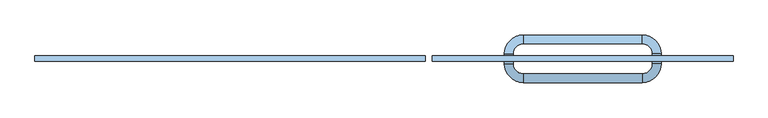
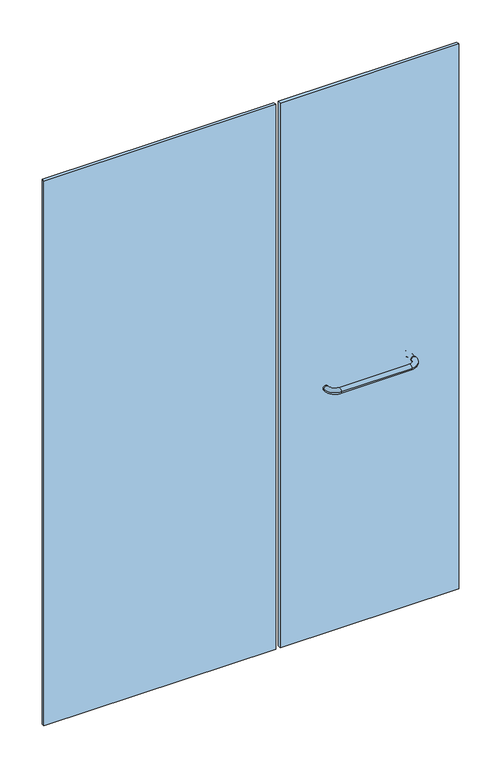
"""IFC4 building model written with IfcOpenShell, lengths in millimetres: window geometry, Baño 1 Puerta lateral - toallero simple : CA01-cancel baño-1.455."""

from ifc_helpers import new_model, si_unit, point, frame, origin, origin_with_axes, place, context, project, spatial, polyline, circle_curve, ellipse_curve, trimmed, outline, extrude, source, transform, mapped, element, save
from ifc_brep_helpers import cylinder_surface, revolved_surface, advanced_brep


def window_b7257eee(model_context):
    return source(origin(), model_context, "Body", "SolidModel", [
        extrude(outline(polyline([(92.5, -5.5), (92.5, 5.5), (712.5, 5.5), (712.5, -5.5), (92.5, -5.5)])), origin_with_axes(), (0.0, 0.0, 1.0), 2000.0),
        extrude(outline(polyline([(-727.5, -5.5), (-727.5, 5.5), (77.5, 5.5), (77.5, -5.5), (-727.5, -5.5)])), origin_with_axes(), (0.0, 0.0, 1.0), 2000.0),
        advanced_brep(
        [(241.0, 10.0, 900.0), (280.0, 49.0, 900.0), (280.0, 31.0, 900.0), (259.0, 10.0, 900.0), (259.0, -10.0, 900.0), (241.0, -10.0, 900.0), (280.0, -49.0, 900.0), (280.0, -31.0, 900.0), (525.0, -31.0, 900.0), (525.0, -49.0, 900.0), (564.0, -10.0, 900.0), (546.0, -10.0, 900.0), (546.0, 10.0, 900.0), (564.0, 10.0, 900.0), (525.0, 49.0, 900.0), (525.0, 31.0, 900.0)],
        [
            (0, 1, circle_curve(frame((280.0, 10.0, 900.0), z_axis=(0.0, 0.0, -1.0), x_axis=(0.0, 1.0, 0.0)), 39.0)),
            (1, 2, circle_curve(frame((280.0, 40.0, 900.0), z_axis=(-1.0, 0.0, 0.0), x_axis=(0.0, -1.0, 0.0)), 9.0)),
            (2, 3, circle_curve(frame((280.0, 10.0, 900.0), z_axis=(0.0, 0.0, 1.0), x_axis=(0.0, 1.0, 0.0)), 21.0)),
            (3, 0, circle_curve(frame((250.0, 10.0, 900.0), z_axis=(0.0, 1.0, 0.0), x_axis=(1.0, 0.0, 0.0)), 9.0)),
            (2, 1, circle_curve(frame((280.0, 40.0, 900.0), z_axis=(-1.0, 0.0, 0.0), x_axis=(0.0, -1.0, 0.0)), 9.0)),
            (0, 3, circle_curve(frame((250.0, 10.0, 900.0), z_axis=(0.0, 1.0, 0.0), x_axis=(1.0, 0.0, 0.0)), 9.0)),
            (3, 4),
            (4, 5, circle_curve(frame((250.0, -10.0, 900.0), z_axis=(0.0, 1.0, 0.0), x_axis=(1.0, 0.0, 0.0)), 9.0)),
            (5, 0),
            (5, 4, circle_curve(frame((250.0, -10.0, 900.0), z_axis=(0.0, 1.0, 0.0), x_axis=(1.0, 0.0, 0.0)), 9.0)),
            (6, 5, circle_curve(frame((280.0, -10.0, 900.0), z_axis=(0.0, 0.0, -1.0), x_axis=(-1.0, 0.0, 0.0)), 39.0)),
            (4, 7, circle_curve(frame((280.0, -10.0, 900.0), z_axis=(0.0, 0.0, 1.0), x_axis=(-1.0, 0.0, 0.0)), 21.0)),
            (7, 6, circle_curve(frame((280.0, -40.0, 900.0), z_axis=(-1.0, 0.0, 0.0), x_axis=(0.0, 1.0, 0.0)), 9.0)),
            (6, 7, circle_curve(frame((280.0, -40.0, 900.0), z_axis=(-1.0, 0.0, 0.0), x_axis=(0.0, 1.0, 0.0)), 9.0)),
            (7, 8),
            (8, 9, circle_curve(frame((525.0, -40.0, 900.0), z_axis=(-1.0, 0.0, 0.0), x_axis=(0.0, 1.0, 0.0)), 9.0)),
            (9, 6),
            (9, 8, circle_curve(frame((525.0, -40.0, 900.0), z_axis=(-1.0, 0.0, 0.0), x_axis=(0.0, 1.0, 0.0)), 9.0)),
            (10, 9, circle_curve(frame((525.0, -10.0, 900.0), z_axis=(0.0, 0.0, -1.0), x_axis=(0.0, -1.0, 0.0)), 39.0)),
            (8, 11, circle_curve(frame((525.0, -10.0, 900.0), z_axis=(0.0, 0.0, 1.0), x_axis=(0.0, -1.0, 0.0)), 21.0)),
            (11, 10, circle_curve(frame((555.0, -10.0, 900.0), z_axis=(0.0, -1.0, 0.0), x_axis=(-1.0, 0.0, 0.0)), 9.0)),
            (10, 11, circle_curve(frame((555.0, -10.0, 900.0), z_axis=(0.0, -1.0, 0.0), x_axis=(-1.0, 0.0, 0.0)), 9.0)),
            (11, 12),
            (12, 13, circle_curve(frame((555.0, 10.0, 900.0), z_axis=(0.0, -1.0, 0.0), x_axis=(-1.0, 0.0, 0.0)), 9.0)),
            (13, 10),
            (13, 12, circle_curve(frame((555.0, 10.0, 900.0), z_axis=(0.0, -1.0, 0.0), x_axis=(-1.0, 0.0, 0.0)), 9.0)),
            (14, 13, circle_curve(frame((525.0, 10.0, 900.0), z_axis=(0.0, 0.0, -1.0), x_axis=(1.0, 0.0, 0.0)), 39.0)),
            (12, 15, circle_curve(frame((525.0, 10.0, 900.0), z_axis=(0.0, 0.0, 1.0), x_axis=(1.0, 0.0, 0.0)), 21.0)),
            (15, 14, circle_curve(frame((525.0, 40.0, 900.0), z_axis=(1.0, 0.0, 0.0), x_axis=(0.0, -1.0, 0.0)), 9.0)),
            (14, 15, circle_curve(frame((525.0, 40.0, 900.0), z_axis=(1.0, 0.0, 0.0), x_axis=(0.0, -1.0, 0.0)), 9.0)),
            (15, 2),
            (1, 14),
        ],
        [
            revolved_surface(trimmed(ellipse_curve(frame((280.0, 40.0, 900.0), z_axis=(1.0, 0.0, 0.0), x_axis=(0.0, -1.0, 0.0)), 9.0, 9.0), [point((280.0, 31.0, 900.0))], [point((280.0, 49.0, 900.0))], True, "CARTESIAN"), (280.0, 10.0, 0.0), (0.0, 0.0, 1.0)),
            revolved_surface(trimmed(ellipse_curve(frame((280.0, 40.0, 900.0), z_axis=(1.0, 0.0, 0.0), x_axis=(0.0, -1.0, 0.0)), 9.0, 9.0), [point((280.0, 49.0, 900.0))], [point((280.0, 31.0, 900.0))], True, "CARTESIAN"), (280.0, 10.0, 0.0), (0.0, 0.0, 1.0)),
            cylinder_surface(frame((250.0, 10.0, 900.0), z_axis=(0.0, 1.0, 0.0), x_axis=(1.0, 0.0, 0.0)), 9.0),
            revolved_surface(trimmed(ellipse_curve(frame((250.0, -10.0, 900.0), z_axis=(0.0, 1.0, 0.0), x_axis=(1.0, 0.0, 0.0)), 9.0, 9.0), [point((259.0, -10.0, 900.0))], [point((241.0, -10.0, 900.0))], True, "CARTESIAN"), (280.0, -10.0, 0.0), (0.0, 0.0, 1.0)),
            revolved_surface(trimmed(ellipse_curve(frame((250.0, -10.0, 900.0), z_axis=(0.0, 1.0, 0.0), x_axis=(1.0, 0.0, 0.0)), 9.0, 9.0), [point((241.0, -10.0, 900.0))], [point((259.0, -10.0, 900.0))], True, "CARTESIAN"), (280.0, -10.0, 0.0), (0.0, 0.0, 1.0)),
            cylinder_surface(frame((280.0, -40.0, 900.0), z_axis=(-1.0, 0.0, 0.0), x_axis=(0.0, 1.0, 0.0)), 9.0),
            revolved_surface(trimmed(ellipse_curve(frame((525.0, -40.0, 900.0), z_axis=(-1.0, 0.0, 0.0), x_axis=(0.0, 1.0, 0.0)), 9.0, 9.0), [point((525.0, -31.0, 900.0))], [point((525.0, -49.0, 900.0))], True, "CARTESIAN"), (525.0, -10.0, 0.0), (0.0, 0.0, 1.0)),
            revolved_surface(trimmed(ellipse_curve(frame((525.0, -40.0, 900.0), z_axis=(-1.0, 0.0, 0.0), x_axis=(0.0, 1.0, 0.0)), 9.0, 9.0), [point((525.0, -49.0, 900.0))], [point((525.0, -31.0, 900.0))], True, "CARTESIAN"), (525.0, -10.0, 0.0), (0.0, 0.0, 1.0)),
            cylinder_surface(frame((555.0, -10.0, 900.0), z_axis=(0.0, -1.0, 0.0), x_axis=(-1.0, 0.0, 0.0)), 9.0),
            revolved_surface(trimmed(ellipse_curve(frame((555.0, 10.0, 900.0), z_axis=(0.0, -1.0, 0.0), x_axis=(-1.0, 0.0, 0.0)), 9.0, 9.0), [point((546.0, 10.0, 900.0))], [point((564.0, 10.0, 900.0))], True, "CARTESIAN"), (525.0, 10.0, 0.0), (0.0, 0.0, 1.0)),
            revolved_surface(trimmed(ellipse_curve(frame((555.0, 10.0, 900.0), z_axis=(0.0, -1.0, 0.0), x_axis=(-1.0, 0.0, 0.0)), 9.0, 9.0), [point((564.0, 10.0, 900.0))], [point((546.0, 10.0, 900.0))], True, "CARTESIAN"), (525.0, 10.0, 0.0), (0.0, 0.0, 1.0)),
            cylinder_surface(frame((525.0, 40.0, 900.0), z_axis=(1.0, 0.0, 0.0), x_axis=(0.0, -1.0, 0.0)), 9.0),
        ],
        [
            (0, [[1, 2, 3, 4]]),
            (1, [[-3, 5, -1, 6]]),
            (2, [[-4, 7, 8, 9]]),
            (2, [[-6, -9, 10, -7]]),
            (3, [[11, -8, 12, 13]]),
            (4, [[-12, -10, -11, 14]]),
            (5, [[-13, 15, 16, 17]]),
            (5, [[-14, -17, 18, -15]]),
            (6, [[19, -16, 20, 21]]),
            (7, [[-20, -18, -19, 22]]),
            (8, [[-21, 23, 24, 25]]),
            (8, [[-22, -25, 26, -23]]),
            (9, [[27, -24, 28, 29]]),
            (10, [[-28, -26, -27, 30]]),
            (11, [[-29, 31, -2, 32]]),
            (11, [[-30, -32, -5, -31]]),
        ],
    ),
    ])


if __name__ == "__main__":
    model = new_model("IFC4")
    model_context = context("Model", 3, world=origin())
    ifc_project = project(units=[si_unit("LENGTHUNIT", "METRE", prefix="MILLI")], contexts=[model_context])
    site = spatial("IfcSite", under=ifc_project)
    building = spatial("IfcBuilding", under=site)
    placement = place(None, origin())
    window_shape = window_b7257eee(model_context)
    element("IfcWindow", 1, ObjectType="Baño 1 Puerta lateral - toallero simple : CA01-cancel baño-1.455", at=placement, inside=building, context=model_context, shape_type="MappedRepresentation", body=[
        mapped(window_shape, transform((0.0, 0.0, 0.0), x_axis=(1.0, 0.0, 0.0), y_axis=(0.0, 1.0, 0.0), z_axis=(0.0, 0.0, 1.0))),
    ])
    save(model, "model.ifc")
